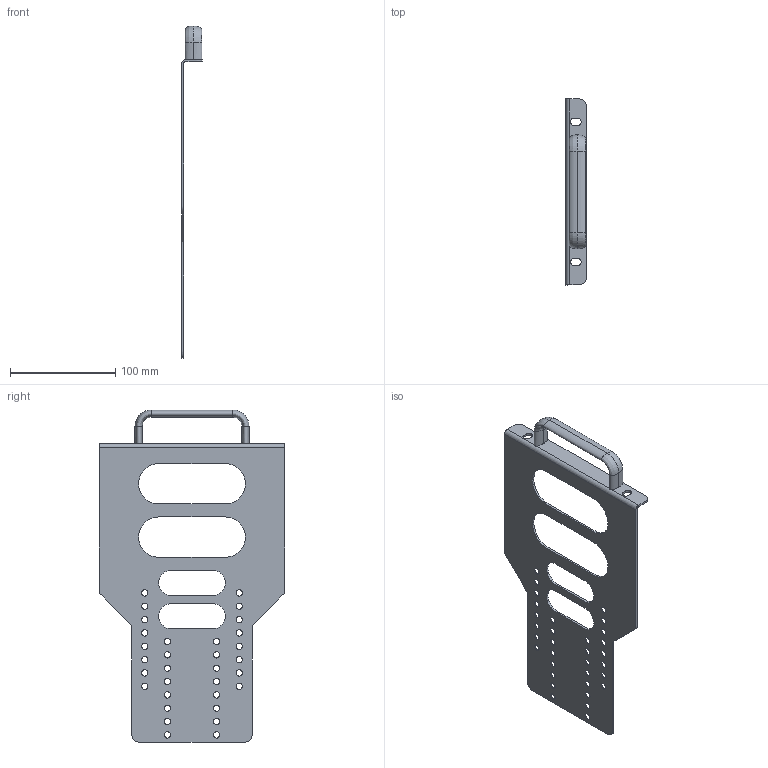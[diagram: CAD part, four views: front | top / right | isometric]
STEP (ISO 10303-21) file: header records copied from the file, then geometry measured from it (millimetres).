
FILE_DESCRIPTION((''),'2;1');
FILE_NAME('ASSY_BKT_RACK_MOUNT_FRONT_PXI_L_ASM','2018-06-06T',('talbott'),(''),'CREO PARAMETRIC BY PTC INC, 2017480','CREO PARAMETRIC BY PTC INC, 2017480','');
FILE_SCHEMA(('AUTOMOTIVE_DESIGN { 1 0 10303 214 1 1 1 1 }'));
Length unit declared in the file: millimetre
Products named in the file (4): BKT_FRONT_RACK_MOUNT_PXI_LONG; HANDLE_OVAL_7X16MM_M4_32H; FLH_PHIL_M4007X08_SS; ASSY_BKT_RACK_MOUNT_FRONT_PXI_L_ASM
Assembly tree (4 placements, depth 2):
  ASSY_BKT_RACK_MOUNT_FRONT_PXI_L_ASM
    BKT_FRONT_RACK_MOUNT_PXI_LONG
    HANDLE_OVAL_7X16MM_M4_32H
    FLH_PHIL_M4007X08_SS  x2
Bounding box: 19.53 x 177 x 316.18 mm (x, y, z)
Volume: 77293.6 mm3; surface area: 79171.1 mm2
Topology: 4 solids, 6 shells, 306 faces, 724 edges, 420 vertices
Faces by surface type: plane 100, cylinder 100, cone 88, bspline 8, extrusion 6, revolution 4
Entity records: 9268 total; most frequent: CARTESIAN_POINT 1593, DIRECTION 1422, ORIENTED_EDGE 1236, EDGE_CURVE 622, AXIS2_PLACEMENT_3D 544, VERTEX_POINT 392, EDGE_LOOP 345, VECTOR 330
